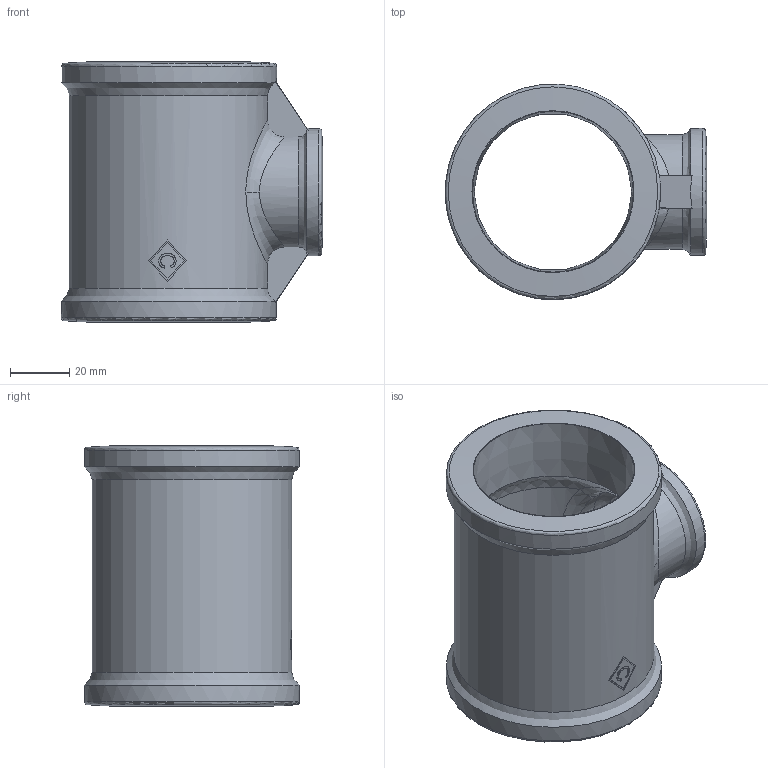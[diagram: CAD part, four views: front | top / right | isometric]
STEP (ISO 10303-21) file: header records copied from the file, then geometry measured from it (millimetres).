
FILE_DESCRIPTION((''),'2;1');
FILE_NAME('P:\Fastrack\53909_CRANE\Crane\Fig.161 Tee\New 2.00 inch\161-2.00x1.00.stp','2009-09-16T16:19:10',('btaylor'),(''),'Autodesk Inventor 2008','Autodesk Inventor 2008','');
FILE_SCHEMA(('AUTOMOTIVE_DESIGN { 1 0 10303 214 1 1 1 1 }'));
Length unit declared in the file: millimetre
Products named in the file (1): 161-2.00x1.00
Bounding box: 88.4 x 72.75 x 88 mm (x, y, z)
Volume: 116455 mm3; surface area: 42459.1 mm2
Topology: 1 solids, 1 shells, 61 faces, 167 edges, 110 vertices
Faces by surface type: bspline 22, plane 19, cylinder 11, cone 6, torus 3
Full cylindrical faces by diameter (mm): 32.7 x1, 43 x1, 72.8 x2
Entity records: 3889 total; most frequent: CARTESIAN_POINT 2532, ORIENTED_EDGE 286, DIRECTION 228, EDGE_CURVE 143, VERTEX_POINT 102, AXIS2_PLACEMENT_3D 95, EDGE_LOOP 83, FACE_OUTER_BOUND 61
